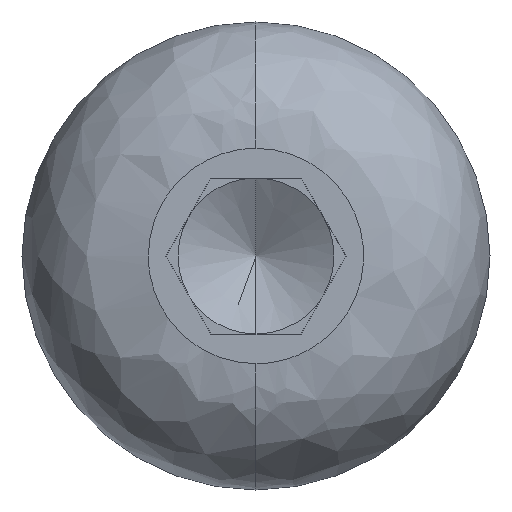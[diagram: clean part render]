
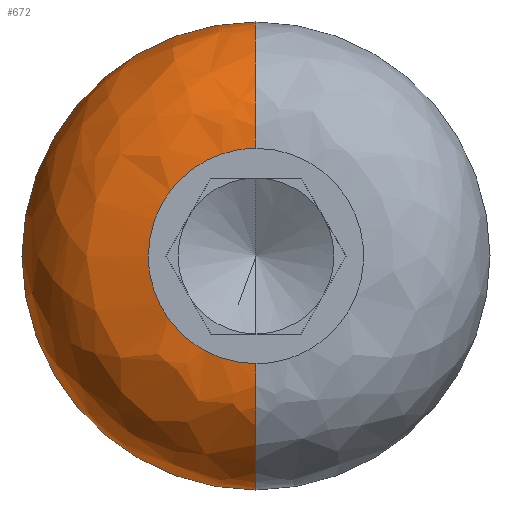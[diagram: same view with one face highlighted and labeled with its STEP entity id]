
A CAD part, left-side view. The second image highlights one B-rep face of the part: STEP entity #672.
In plain terms, the highlighted free-form (B-spline) face has degree [3, 3] with [4, 4] control points.
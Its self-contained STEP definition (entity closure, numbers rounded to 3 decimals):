
#25 = CARTESIAN_POINT ( 'NONE',  ( 0., 9.316, -4.658 ) ) ;
#31 = CIRCLE ( 'NONE', #809, 3.24 ) ;
#34 = CARTESIAN_POINT ( 'NONE',  ( 3.24, 0., 0. ) ) ;
#51 = VERTEX_POINT ( 'NONE', #714 ) ;
#70 = CIRCLE ( 'NONE', #664, 6. ) ;
#71 = VERTEX_POINT ( 'NONE', #555 ) ;
#87 = CARTESIAN_POINT ( 'NONE',  ( 0., 5.52, -2.76 ) ) ;
#99 = CARTESIAN_POINT ( 'NONE',  ( 3.24, 0., 6. ) ) ;
#103 = EDGE_CURVE ( 'NONE', #51, #601, #477, .T. ) ;
#138 = CARTESIAN_POINT ( 'NONE',  ( 0., 1.617, 2.76 ) ) ;
#148 = CARTESIAN_POINT ( 'NONE',  ( 0., 0., 4.658 ) ) ;
#166 =( BOUNDED_CURVE ( )  B_SPLINE_CURVE ( 3, ( #266, #651, #138, #474 ),
 .UNSPECIFIED., .F., .F. ) 
 B_SPLINE_CURVE_WITH_KNOTS ( ( 4, 4 ),
 ( 0., 1. ),
 .UNSPECIFIED. ) 
 CURVE ( )  GEOMETRIC_REPRESENTATION_ITEM ( )  RATIONAL_B_SPLINE_CURVE ( ( 1., 0.805, 0.805, 1. ) ) 
 REPRESENTATION_ITEM ( '' )  );
#207 = CARTESIAN_POINT ( 'NONE',  ( 1.342, 12., -6. ) ) ;
#229 = CARTESIAN_POINT ( 'NONE',  ( 0., 2.76, 0. ) ) ;
#232 = EDGE_LOOP ( 'NONE', ( #438, #444, #449, #451, #459 ) ) ;
#235 = DIRECTION ( 'NONE',  ( 0., 0., -1. ) ) ;
#240 = DIRECTION ( 'NONE',  ( 0., -1., 0. ) ) ;
#247 = CARTESIAN_POINT ( 'NONE',  ( 3.24, 0., -2.76 ) ) ;
#260 =( BOUNDED_SURFACE ( )  B_SPLINE_SURFACE ( 3, 3, ( 
 ( #400, #789, #87, #468 ),
 ( #148, #537, #25, #408 ),
 ( #274, #661, #207, #593 ),
 ( #785, #339, #733, #269 ) ),
 .UNSPECIFIED., .F., .F., .T. ) 
 B_SPLINE_SURFACE_WITH_KNOTS ( ( 4, 4 ),
 ( 4, 4 ),
 ( 0., 1. ),
 ( 0., 1. ),
 .UNSPECIFIED. ) 
 GEOMETRIC_REPRESENTATION_ITEM ( )  RATIONAL_B_SPLINE_SURFACE ( (
 ( 1., 0.333, 0.333, 1.),
 ( 0.805, 0.268, 0.268, 0.805),
 ( 0.805, 0.268, 0.268, 0.805),
 ( 1., 0.333, 0.333, 1.) ) ) 
 REPRESENTATION_ITEM ( '' )  SURFACE ( )  );
#266 = CARTESIAN_POINT ( 'NONE',  ( 0., 2.76, 0. ) ) ;
#269 = CARTESIAN_POINT ( 'NONE',  ( 3.24, 0., -6. ) ) ;
#274 = CARTESIAN_POINT ( 'NONE',  ( 1.342, 0., 6. ) ) ;
#289 = CARTESIAN_POINT ( 'NONE',  ( 0., 2.76, -1.617 ) ) ;
#303 = DIRECTION ( 'NONE',  ( 0., 0., 1. ) ) ;
#339 = CARTESIAN_POINT ( 'NONE',  ( 3.24, 12., 6. ) ) ;
#348 = DIRECTION ( 'NONE',  ( 0., 1., 0. ) ) ;
#357 = CARTESIAN_POINT ( 'NONE',  ( 0., 0., -2.76 ) ) ;
#363 = CARTESIAN_POINT ( 'NONE',  ( 0., 1.617, -2.76 ) ) ;
#364 = CARTESIAN_POINT ( 'NONE',  ( 3.24, 0., 2.76 ) ) ;
#400 = CARTESIAN_POINT ( 'NONE',  ( 0., 0., 2.76 ) ) ;
#408 = CARTESIAN_POINT ( 'NONE',  ( 0., 0., -4.658 ) ) ;
#420 = DIRECTION ( 'NONE',  ( 1., 0., 0. ) ) ;
#428 = VERTEX_POINT ( 'NONE', #490 ) ;
#438 = ORIENTED_EDGE ( 'NONE', *, *, #562, .F. ) ;
#444 = ORIENTED_EDGE ( 'NONE', *, *, #823, .T. ) ;
#449 = ORIENTED_EDGE ( 'NONE', *, *, #772, .T. ) ;
#451 = ORIENTED_EDGE ( 'NONE', *, *, #103, .T. ) ;
#459 = ORIENTED_EDGE ( 'NONE', *, *, #751, .F. ) ;
#468 = CARTESIAN_POINT ( 'NONE',  ( 0., 0., -2.76 ) ) ;
#471 = CARTESIAN_POINT ( 'NONE',  ( 0., 0., -2.76 ) ) ;
#474 = CARTESIAN_POINT ( 'NONE',  ( 0., 0., 2.76 ) ) ;
#477 = CIRCLE ( 'NONE', #619, 3.24 ) ;
#490 = CARTESIAN_POINT ( 'NONE',  ( 3.24, 0., -6. ) ) ;
#500 =( BOUNDED_CURVE ( )  B_SPLINE_CURVE ( 3, ( #357, #363, #289, #229 ),
 .UNSPECIFIED., .F., .F. ) 
 B_SPLINE_CURVE_WITH_KNOTS ( ( 4, 4 ),
 ( 0., 1. ),
 .UNSPECIFIED. ) 
 CURVE ( )  GEOMETRIC_REPRESENTATION_ITEM ( )  RATIONAL_B_SPLINE_CURVE ( ( 1., 0.805, 0.805, 1. ) ) 
 REPRESENTATION_ITEM ( '' )  );
#537 = CARTESIAN_POINT ( 'NONE',  ( 0., 9.316, 4.658 ) ) ;
#555 = CARTESIAN_POINT ( 'NONE',  ( 0., 2.76, 0. ) ) ;
#562 = EDGE_CURVE ( 'NONE', #674, #428, #31, .T. ) ;
#593 = CARTESIAN_POINT ( 'NONE',  ( 1.342, 0., -6. ) ) ;
#601 = VERTEX_POINT ( 'NONE', #99 ) ;
#619 = AXIS2_PLACEMENT_3D ( 'NONE', #364, #348, #303 ) ;
#647 = FACE_OUTER_BOUND ( 'NONE', #232, .T. ) ;
#651 = CARTESIAN_POINT ( 'NONE',  ( 0., 2.76, 1.617 ) ) ;
#661 = CARTESIAN_POINT ( 'NONE',  ( 1.342, 12., 6. ) ) ;
#664 = AXIS2_PLACEMENT_3D ( 'NONE', #34, #420, #793 ) ;
#672 = ADVANCED_FACE ( 'NONE', ( #647 ), #260, .T. ) ;
#674 = VERTEX_POINT ( 'NONE', #471 ) ;
#714 = CARTESIAN_POINT ( 'NONE',  ( 0., 0., 2.76 ) ) ;
#733 = CARTESIAN_POINT ( 'NONE',  ( 3.24, 12., -6. ) ) ;
#751 = EDGE_CURVE ( 'NONE', #428, #601, #70, .T. ) ;
#772 = EDGE_CURVE ( 'NONE', #71, #51, #166, .T. ) ;
#785 = CARTESIAN_POINT ( 'NONE',  ( 3.24, 0., 6. ) ) ;
#789 = CARTESIAN_POINT ( 'NONE',  ( 0., 5.52, 2.76 ) ) ;
#793 = DIRECTION ( 'NONE',  ( 0., 0., 1. ) ) ;
#809 = AXIS2_PLACEMENT_3D ( 'NONE', #247, #240, #235 ) ;
#823 = EDGE_CURVE ( 'NONE', #674, #71, #500, .T. ) ;
